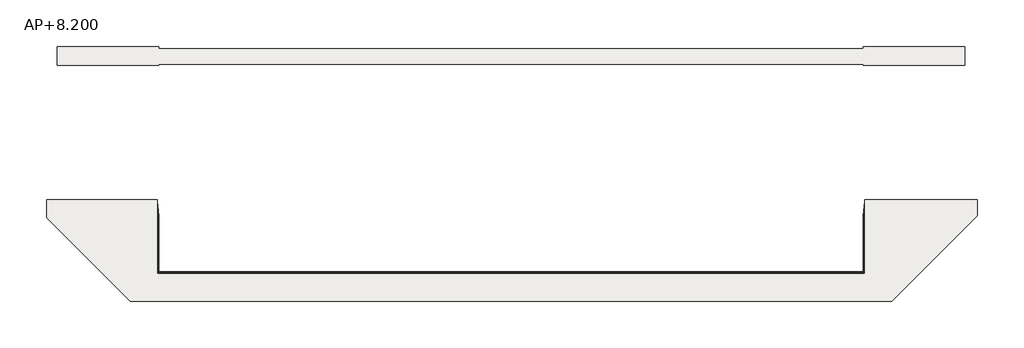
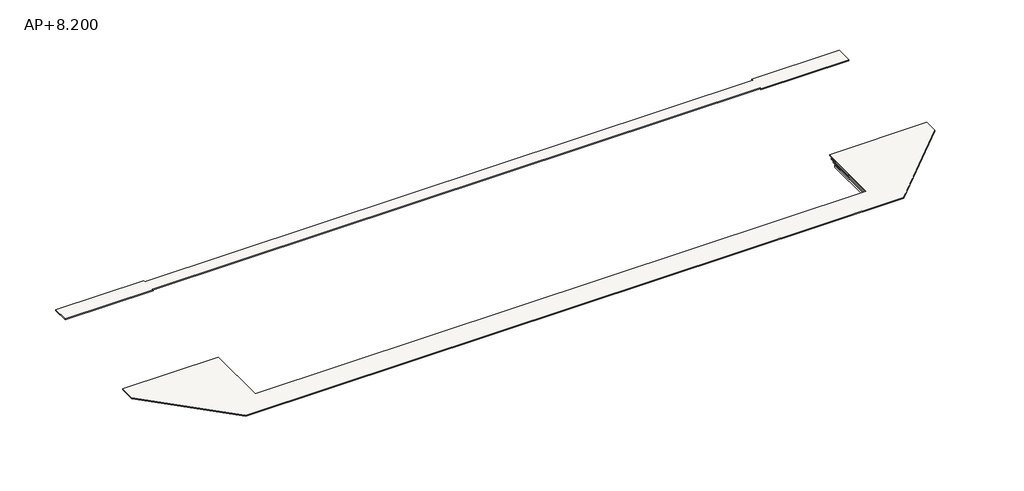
# One storey: 1 slab.
"""IFC4 building model written with IfcOpenShell, lengths in millimetres."""

import ifcopenshell
import ifcopenshell.guid

model = None  # the IFC model being written
_history = None  # IfcOwnerHistory: only IFC2X3 demands one
_inside = {}  # id of a spatial element -> (the spatial element, [elements in it])
_under = {}  # id of a project, library or spatial element -> (it, [spatial elements below it])
_declared = {}  # id of a project -> (the project, [libraries it declares])
_typed = {}  # id of a type object -> (the type object, [elements of that type])
_made_of = {}  # id of a material, layer set ... -> (it, [elements and type objects made of it])


def new_model(schema):
    """Start an empty IFC model of exactly this schema.

    Asked for "IFC4X3", IfcOpenShell would pick the latest addendum, in which some entities
    have other attributes; the version numbers below select the first issue.
    IFC2X3 requires an IfcOwnerHistory on every rooted entity: one is made here for all.
    """
    global model, _history
    if schema == "IFC4X3":
        model = ifcopenshell.file(schema_version=(4, 3, 0, 0))
    else:
        model = ifcopenshell.file(schema=schema)
    _inside.clear()
    _under.clear()
    _declared.clear()
    _typed.clear()
    _made_of.clear()
    _history = None
    if model.schema == "IFC2X3":
        org = make("IfcOrganization", Name="unknown")
        user = make(
            "IfcPersonAndOrganization",
            ThePerson=make("IfcPerson", FamilyName="unknown"),
            TheOrganization=org,
        )
        app = make(
            "IfcApplication",
            ApplicationDeveloper=org,
            Version="unknown",
            ApplicationFullName="unknown",
            ApplicationIdentifier="unknown",
        )
        _history = make(
            "IfcOwnerHistory",
            OwningUser=user,
            OwningApplication=app,
            ChangeAction="ADDED",
            CreationDate=0,
        )
    return model


def make(cls, **values):
    """One entity of the class cls with the attributes given. An attribute that is None is left unset."""
    return model.create_entity(
        cls, **{name: value for name, value in values.items() if value is not None}
    )


def rooted(cls, **values):
    """An entity with a GlobalId (a new one), such as an element, a storey or a relation."""
    return make(cls, GlobalId=ifcopenshell.guid.new(), OwnerHistory=_history, **values)


def si_unit(unit_type, name, prefix=None):
    """IfcSIUnit, for example si_unit("LENGTHUNIT", "METRE", prefix="MILLI")."""
    return make("IfcSIUnit", UnitType=unit_type, Prefix=prefix, Name=name)


def assignment(units):
    """IfcUnitAssignment: the units of a project."""
    return None if units is None else make("IfcUnitAssignment", Units=units)


def point(xyz):
    """IfcCartesianPoint."""
    return None if xyz is None else make("IfcCartesianPoint", Coordinates=xyz)


def direction(xyz):
    """IfcDirection."""
    return None if xyz is None else make("IfcDirection", DirectionRatios=xyz)


def frame(location, z_axis=None, x_axis=None):
    """IfcAxis2Placement3D, a coordinate frame: its origin and axes. An axis left out is left unset."""
    return make(
        "IfcAxis2Placement3D",
        Location=point(location),
        Axis=direction(z_axis),
        RefDirection=direction(x_axis),
    )


def origin():
    """The frame at (0, 0, 0) with its axes left unset."""
    return frame((0.0, 0.0, 0.0))


def place(relative_to, where):
    """IfcLocalPlacement: puts the frame where relative to a parent placement (None: the world)."""
    return make(
        "IfcLocalPlacement", PlacementRelTo=relative_to, RelativePlacement=where
    )


def context(
    kind, dimensions, precision=None, world=None, true_north=None, identifier=None
):
    """IfcGeometricRepresentationContext, for example the 3D "Model" context."""
    return make(
        "IfcGeometricRepresentationContext",
        ContextIdentifier=identifier,
        ContextType=kind,
        CoordinateSpaceDimension=dimensions,
        Precision=precision,
        WorldCoordinateSystem=world,
        TrueNorth=true_north,
    )


def project(units=None, contexts=None):
    """IfcProject with its units and contexts."""
    return rooted(
        "IfcProject",
        Name="project",
        RepresentationContexts=contexts,
        UnitsInContext=assignment(units),
    )


def spatial(cls, under=None, at=None, **own):
    """A site, building, storey or space (cls), placed at a placement, below another one or the project."""
    s = rooted(cls, ObjectPlacement=at, **own)
    if under is not None:
        _under.setdefault(under.id(), (under, []))[1].append(s)
    return s


def polyline(points):
    """IfcPolyline through the points."""
    return make("IfcPolyline", Points=[point(p) for p in points])


def outline(outer, holes=None, kind="AREA"):
    """IfcArbitraryClosedProfileDef: a profile drawn as a closed curve; with holes, ...WithVoids."""
    if holes is None:
        return make("IfcArbitraryClosedProfileDef", ProfileType=kind, OuterCurve=outer)
    return make(
        "IfcArbitraryProfileDefWithVoids",
        ProfileType=kind,
        OuterCurve=outer,
        InnerCurves=holes,
    )


def extrude(swept, where, along, depth):
    """IfcExtrudedAreaSolid: the profile swept, set in the frame where, extruded along a direction by depth."""
    return make(
        "IfcExtrudedAreaSolid",
        SweptArea=swept,
        Position=where,
        ExtrudedDirection=direction(along),
        Depth=depth,
    )


def shape(context_of_items, identifier, shape_type, items):
    """IfcShapeRepresentation: the items that make up one representation, for example the "Body"."""
    return make(
        "IfcShapeRepresentation",
        ContextOfItems=context_of_items,
        RepresentationIdentifier=identifier,
        RepresentationType=shape_type,
        Items=items,
    )


def source(mapping_origin, context_of_items, identifier, shape_type, items):
    """IfcRepresentationMap: a shape defined once, which mapped items show again and again."""
    return make(
        "IfcRepresentationMap",
        MappingOrigin=mapping_origin,
        MappedRepresentation=shape(context_of_items, identifier, shape_type, items),
    )


def transform(
    local_origin,
    x_axis=None,
    y_axis=None,
    z_axis=None,
    scale=None,
    scale2=None,
    scale3=None,
    uniform=True,
):
    """IfcCartesianTransformationOperator3D, or its non-uniform kind. x_axis, y_axis, z_axis: its Axis1, 2, 3."""
    if uniform:
        return make(
            "IfcCartesianTransformationOperator3D",
            Axis1=direction(x_axis),
            Axis2=direction(y_axis),
            LocalOrigin=point(local_origin),
            Scale=scale,
            Axis3=direction(z_axis),
        )
    return make(
        "IfcCartesianTransformationOperator3DnonUniform",
        Axis1=direction(x_axis),
        Axis2=direction(y_axis),
        LocalOrigin=point(local_origin),
        Scale=scale,
        Axis3=direction(z_axis),
        Scale2=scale2,
        Scale3=scale3,
    )


def mapped(mapping_source, mapping_target):
    """IfcMappedItem: shows the shape of a source again, moved by a transform."""
    return make(
        "IfcMappedItem", MappingSource=mapping_source, MappingTarget=mapping_target
    )


def made_of(thing, what):
    """Note that an element or type object is made of a material, layer set ...; save() writes the relation."""
    if what is not None:
        _made_of.setdefault(what.id(), (what, []))[1].append(thing)
    return thing


def element(
    cls,
    number,
    at=None,
    inside=None,
    cuts=None,
    type_object=None,
    material=None,
    context=None,
    identifier="Body",
    shape_type=None,
    held_by="IfcProductDefinitionShape",
    body=None,
    shapes=None,
    **own,
):
    """One element of the class cls, such as IfcWall. Its Tag is "e" and its number.

    at: its placement. inside: the storey or other place that contains it. cuts: it is an
    opening in that element (IfcRelVoidsElement). A single representation is given by context,
    identifier, shape_type and body (its items); several are given by shapes. held_by: the class
    of the entity that holds the representations. save() writes the other relations.
    """
    e = rooted(cls, Tag="e%d" % number, ObjectPlacement=at, **own)
    if body is not None:
        shapes = [shape(context, identifier, shape_type, body)]
    if shapes is not None:
        e.Representation = make(held_by, Representations=shapes)
    if inside is not None:
        _inside.setdefault(inside.id(), (inside, []))[1].append(e)
    if cuts is not None:
        rooted(
            "IfcRelVoidsElement", RelatingBuildingElement=cuts, RelatedOpeningElement=e
        )
    if type_object is not None:
        _typed.setdefault(type_object.id(), (type_object, []))[1].append(e)
    return made_of(e, material)


def aggregate(whole, parts):
    """IfcRelAggregates: a whole, such as a stair, and the parts it consists of."""
    return rooted("IfcRelAggregates", RelatingObject=whole, RelatedObjects=parts)


def save(model, path):
    """Write the relations noted so far, then the file.

    IfcRelAggregates (storeys below a building ...), IfcRelContainedInSpatialStructure (elements
    in a storey), IfcRelDefinesByType, IfcRelAssociatesMaterial and IfcRelDeclares: one each for
    every whole, place, type object, material and project.
    """
    for whole, parts in _under.values():
        aggregate(whole, parts)
    for where, things in _inside.values():
        rooted(
            "IfcRelContainedInSpatialStructure",
            RelatedElements=things,
            RelatingStructure=where,
        )
    for kind, things in _typed.values():
        rooted("IfcRelDefinesByType", RelatedObjects=things, RelatingType=kind)
    for what, things in _made_of.values():
        rooted("IfcRelAssociatesMaterial", RelatedObjects=things, RelatingMaterial=what)
    for by, libraries in _declared.values():
        rooted("IfcRelDeclares", RelatingContext=by, RelatedDefinitions=libraries)
    model.write(path)


def slab_a15bf82b(model_context):
    return source(origin(), model_context, "Body", "SweptSolid", [
        extrude(outline(polyline([(-168458.0, 35864.6035583), (-128458.0, 35864.6035583), (-128458.0, 34952.0), (148750.0, 34952.0), (148750.0, 35864.6035583), (188750.0, 35864.6035583), (188750.0, 28452.0), (148750.0, 28452.0), (148750.0, 28952.0), (-128458.0, 28952.0), (-128458.0, 28452.0), (-168458.0, 28452.0), (-168458.0, 35864.6035583)])), frame((0.0, 0.0, 7700.0), z_axis=(0.0, 0.0, 1.0), x_axis=(1.0, 0.0, 0.0)), (0.0, 0.0, 1.0), 500.0),
        extrude(outline(polyline([(-129458.0, -29881.3), (-128458.0, -29881.3), (-128458.0, -52750.0), (148750.0, -52750.0), (148750.0, -29881.3), (149750.0, -29881.3), (149750.0, -53750.0), (-129458.0, -53750.0), (-129458.0, -29881.3)])), frame((0.0, 0.0, 5700.0), z_axis=(0.0, 0.0, 1.0), x_axis=(1.0, 0.0, 0.0)), (0.0, 0.0, 1.0), 1000.0),
        extrude(outline(polyline([(-129708.0, -28081.3), (-128708.0, -28081.3), (-128708.0, -53000.0), (149000.0, -53000.0), (149000.0, -28081.3), (150000.0, -28081.3), (150000.0, -54000.0), (-129708.0, -54000.0), (-129708.0, -28081.3)])), frame((0.0, 0.0, 6700.0), z_axis=(0.0, 0.0, 1.0), x_axis=(1.0, 0.0, 0.0)), (0.0, 0.0, 1.0), 500.0),
        extrude(outline(polyline([(-128958.0, -26281.3), (-128958.0, -53250.0), (149250.0, -53250.0), (149250.0, -26281.3), (150000.0, -26281.3), (150000.0, -54250.0), (-129958.0, -54250.0), (-129958.0, -26281.3), (-128958.0, -26281.3)])), frame((0.0, 0.0, 7200.0), z_axis=(0.0, 0.0, 1.0), x_axis=(1.0, 0.0, 0.0)), (0.0, 0.0, 1.0), 500.0),
        extrude(outline(polyline([(-172729.7969424, -31615.2693616), (-172729.7969424, -24481.3), (-129208.0, -24481.3), (-129208.0, -53500.0), (149500.0, -53500.0), (149500.0, -24481.3), (193806.5236164, -24481.3), (193806.5236164, -30836.7537445), (160149.2772356, -64494.0), (-139851.066304, -64494.0), (-172729.7969424, -31615.2693616)])), frame((0.0, 0.0, 7700.0), z_axis=(0.0, 0.0, 1.0), x_axis=(1.0, 0.0, 0.0)), (0.0, 0.0, 1.0), 500.0),
    ])


model = new_model("IFC4")

# Units and contexts
model_context = context("Model", 3, world=origin())
ifc_project = project(units=[si_unit("LENGTHUNIT", "METRE", prefix="MILLI")], contexts=[model_context])

# Site, building, storey
site = spatial("IfcSite", under=ifc_project)
building = spatial("IfcBuilding", under=site)
storey = spatial("IfcBuildingStorey", under=building, Name="AP+8.200", Elevation=8200.0)

# Slab
placement = place(None, origin())
slab_shape = slab_a15bf82b(model_context)
element("IfcSlab", 1, ObjectType="かごマット : かごマット", at=placement, inside=storey, context=model_context, shape_type="MappedRepresentation", body=[
    mapped(slab_shape, transform((0.0, 0.0, 0.0), x_axis=(1.0, 0.0, 0.0), y_axis=(0.0, 1.0, 0.0), z_axis=(0.0, 0.0, 1.0))),
])

save(model, "model.ifc")
